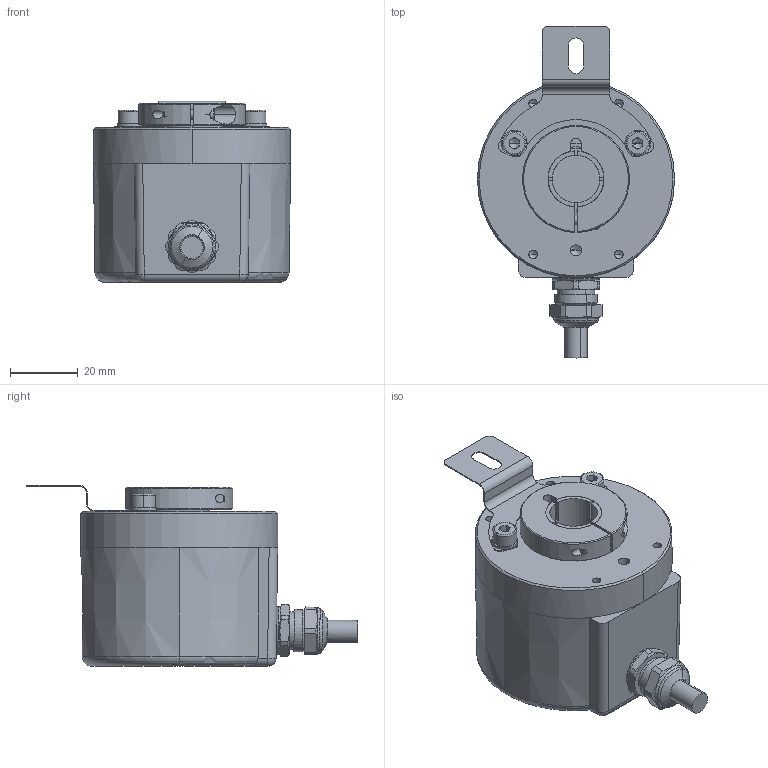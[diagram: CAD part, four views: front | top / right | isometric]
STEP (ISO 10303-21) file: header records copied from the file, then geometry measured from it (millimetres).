
FILE_DESCRIPTION (( 'STEP AP203' ), '1' );
FILE_NAME ('E58HM-SSI-272##.STEP', '2024-07-24T13:40:25', ( '' ), ( '' ), 'SwSTEP 2.0', 'SolidWorks 2023', '' );
FILE_SCHEMA (( 'CONFIG_CONTROL_DESIGN' ));
Length unit declared in the file: millimetre
Products named in the file (1): E58HM-SSI-272##
Bounding box: 58 x 97.61 x 53.4 mm (x, y, z)
Volume: 124022.4 mm3; surface area: 22934.1 mm2
Topology: 10 solids, 12 shells, 533 faces, 1291 edges, 790 vertices
Faces by surface type: plane 268, cylinder 136, cone 82, torus 41, sphere 6
Entity records: 15868 total; most frequent: CARTESIAN_POINT 3257, DIRECTION 2723, ORIENTED_EDGE 2534, EDGE_CURVE 1267, AXIS2_PLACEMENT_3D 1014, VERTEX_POINT 790, VECTOR 695, LINE 695
